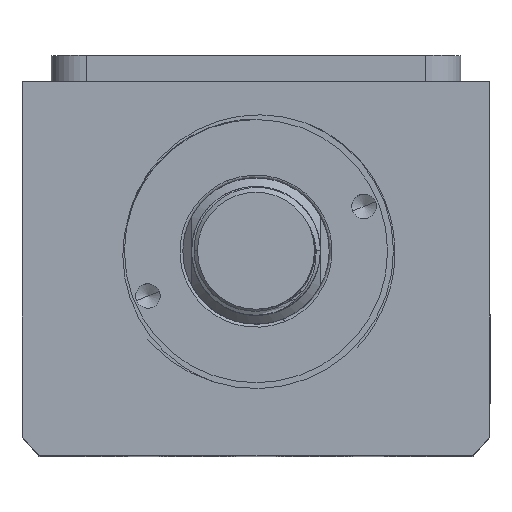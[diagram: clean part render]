
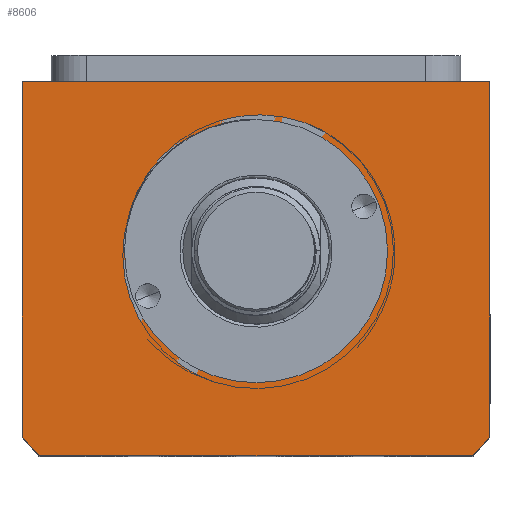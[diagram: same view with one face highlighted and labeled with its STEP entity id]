
A CAD part, top view. The second image highlights one B-rep face of the part: STEP entity #8606.
In plain terms, the highlighted planar face has unit normal (0, 0, 1).
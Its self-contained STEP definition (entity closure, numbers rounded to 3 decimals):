
#67 = CARTESIAN_POINT ( 'NONE',  ( -40., 32., 60. ) ) ;
#102 = VECTOR ( 'NONE', #10197, 1000. ) ;
#400 = DIRECTION ( 'NONE',  ( 0., 1., 0. ) ) ;
#1251 = CIRCLE ( 'NONE', #11902, 51. ) ;
#1331 = CARTESIAN_POINT ( 'NONE',  ( 22.5, 3., 60. ) ) ;
#1606 = VERTEX_POINT ( 'NONE', #1331 ) ;
#2096 = VECTOR ( 'NONE', #10807, 1000. ) ;
#2310 = EDGE_CURVE ( 'NONE', #4325, #5195, #5812, .T. ) ;
#2529 = EDGE_CURVE ( 'NONE', #9034, #5809, #4815, .T. ) ;
#2556 = DIRECTION ( 'NONE',  ( 0., 0., 1. ) ) ;
#2742 = CARTESIAN_POINT ( 'NONE',  ( -22.5, 3., 60. ) ) ;
#2797 = CIRCLE ( 'NONE', #5940, 51. ) ;
#2910 = DIRECTION ( 'NONE',  ( 0., 0., 1. ) ) ;
#3034 = EDGE_CURVE ( 'NONE', #5809, #11504, #4979, .T. ) ;
#3504 = CARTESIAN_POINT ( 'NONE',  ( 0., 3., 60. ) ) ;
#3637 = PLANE ( 'NONE',  #13030 ) ;
#3786 = CARTESIAN_POINT ( 'NONE',  ( 40., 32., 60. ) ) ;
#4325 = VERTEX_POINT ( 'NONE', #9948 ) ;
#4580 = DIRECTION ( 'NONE',  ( 1., 0., 0. ) ) ;
#4643 = DIRECTION ( 'NONE',  ( 0., 0., 1. ) ) ;
#4721 = DIRECTION ( 'NONE',  ( 1., 0., 0. ) ) ;
#4815 = LINE ( 'NONE', #5761, #5159 ) ;
#4979 = LINE ( 'NONE', #9693, #2096 ) ;
#5122 = EDGE_CURVE ( 'NONE', #1606, #6006, #10693, .T. ) ;
#5159 = VECTOR ( 'NONE', #400, 1000. ) ;
#5195 = VERTEX_POINT ( 'NONE', #6966 ) ;
#5224 = DIRECTION ( 'NONE',  ( 0., -1., 0. ) ) ;
#5404 = EDGE_CURVE ( 'NONE', #11504, #12552, #11171, .T. ) ;
#5494 = ORIENTED_EDGE ( 'NONE', *, *, #2310, .T. ) ;
#5533 = CIRCLE ( 'NONE', #13448, 22.5 ) ;
#5755 = AXIS2_PLACEMENT_3D ( 'NONE', #8987, #2556, #10079 ) ;
#5761 = CARTESIAN_POINT ( 'NONE',  ( 40., 32., 60. ) ) ;
#5809 = VERTEX_POINT ( 'NONE', #3786 ) ;
#5812 = LINE ( 'NONE', #9101, #102 ) ;
#5940 = AXIS2_PLACEMENT_3D ( 'NONE', #11084, #4643, #12155 ) ;
#6006 = VERTEX_POINT ( 'NONE', #2742 ) ;
#6384 = EDGE_LOOP ( 'NONE', ( #9966, #6996 ) ) ;
#6712 = ORIENTED_EDGE ( 'NONE', *, *, #5404, .T. ) ;
#6966 = CARTESIAN_POINT ( 'NONE',  ( 37.094, -32., 60. ) ) ;
#6996 = ORIENTED_EDGE ( 'NONE', *, *, #13648, .F. ) ;
#7540 = CARTESIAN_POINT ( 'NONE',  ( -40., -28.639, 60. ) ) ;
#7864 = CARTESIAN_POINT ( 'NONE',  ( 0., 0., 60. ) ) ;
#8309 = VECTOR ( 'NONE', #5224, 1000. ) ;
#8524 = ORIENTED_EDGE ( 'NONE', *, *, #3034, .T. ) ;
#8606 = ADVANCED_FACE ( 'NONE', ( #11728, #8838 ), #3637, .T. ) ;
#8708 = ORIENTED_EDGE ( 'NONE', *, *, #10621, .T. ) ;
#8838 = FACE_OUTER_BOUND ( 'NONE', #13166, .T. ) ;
#8954 = ORIENTED_EDGE ( 'NONE', *, *, #11508, .T. ) ;
#8987 = CARTESIAN_POINT ( 'NONE',  ( 0., 3., 60. ) ) ;
#9034 = VERTEX_POINT ( 'NONE', #12783 ) ;
#9101 = CARTESIAN_POINT ( 'NONE',  ( -40., -32., 60. ) ) ;
#9278 = CARTESIAN_POINT ( 'NONE',  ( -40., 32., 60. ) ) ;
#9334 = CARTESIAN_POINT ( 'NONE',  ( 0., 3., 60. ) ) ;
#9693 = CARTESIAN_POINT ( 'NONE',  ( -40., 32., 60. ) ) ;
#9948 = CARTESIAN_POINT ( 'NONE',  ( -37.094, -32., 60. ) ) ;
#9966 = ORIENTED_EDGE ( 'NONE', *, *, #5122, .F. ) ;
#10079 = DIRECTION ( 'NONE',  ( 1., 0., 0. ) ) ;
#10197 = DIRECTION ( 'NONE',  ( 1., 0., 0. ) ) ;
#10445 = DIRECTION ( 'NONE',  ( 1., 0., 0. ) ) ;
#10621 = EDGE_CURVE ( 'NONE', #12552, #4325, #2797, .T. ) ;
#10693 = CIRCLE ( 'NONE', #5755, 22.5 ) ;
#10807 = DIRECTION ( 'NONE',  ( -1., 0., 0. ) ) ;
#11022 = DIRECTION ( 'NONE',  ( 0., 0., 1. ) ) ;
#11084 = CARTESIAN_POINT ( 'NONE',  ( 0., 3., 60. ) ) ;
#11150 = DIRECTION ( 'NONE',  ( 0., 0., 1. ) ) ;
#11171 = LINE ( 'NONE', #67, #8309 ) ;
#11504 = VERTEX_POINT ( 'NONE', #9278 ) ;
#11508 = EDGE_CURVE ( 'NONE', #5195, #9034, #1251, .T. ) ;
#11728 = FACE_BOUND ( 'NONE', #6384, .T. ) ;
#11902 = AXIS2_PLACEMENT_3D ( 'NONE', #9334, #2910, #10445 ) ;
#12155 = DIRECTION ( 'NONE',  ( 1., 0., 0. ) ) ;
#12552 = VERTEX_POINT ( 'NONE', #7540 ) ;
#12783 = CARTESIAN_POINT ( 'NONE',  ( 40., -28.639, 60. ) ) ;
#13030 = AXIS2_PLACEMENT_3D ( 'NONE', #7864, #11150, #4721 ) ;
#13166 = EDGE_LOOP ( 'NONE', ( #6712, #8708, #5494, #8954, #13507, #8524 ) ) ;
#13448 = AXIS2_PLACEMENT_3D ( 'NONE', #3504, #11022, #4580 ) ;
#13507 = ORIENTED_EDGE ( 'NONE', *, *, #2529, .T. ) ;
#13648 = EDGE_CURVE ( 'NONE', #6006, #1606, #5533, .T. ) ;
